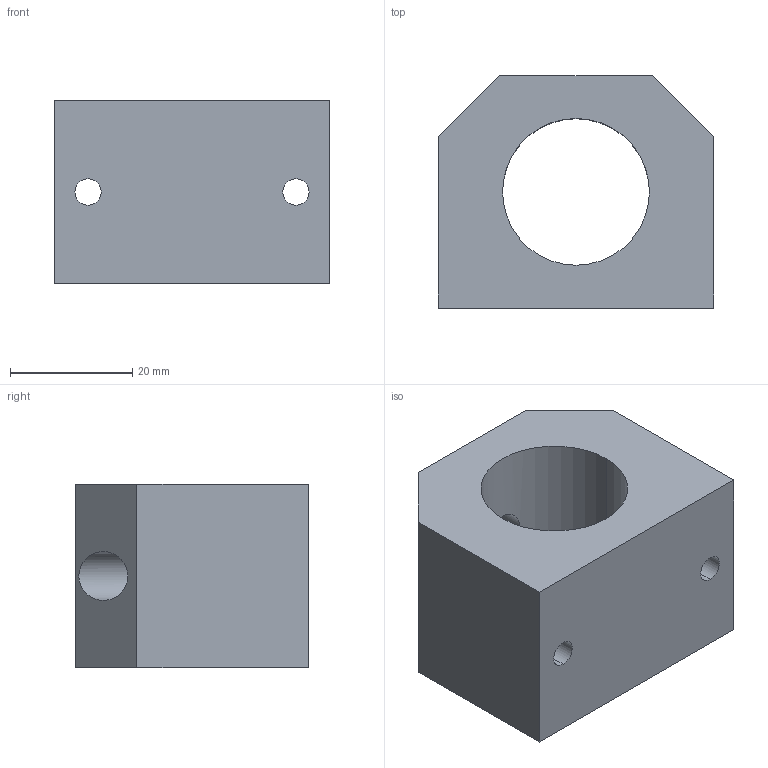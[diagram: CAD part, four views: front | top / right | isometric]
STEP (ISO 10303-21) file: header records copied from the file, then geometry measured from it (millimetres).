
FILE_DESCRIPTION (( 'STEP AP214' ), '1' );
FILE_NAME ('KGC27-16.step', '2020-03-04T13:06:01', ( '' ), ( '' ), 'SwSTEP 2.0', 'SolidWorks 2019', '' );
FILE_SCHEMA (( 'AUTOMOTIVE_DESIGN' ));
Length unit declared in the file: millimetre
Products named in the file (1): KGC27-16
Bounding box: 45 x 38 x 30 mm (x, y, z)
Volume: 32372.8 mm3; surface area: 10453.6 mm2
Topology: 1 solids, 1 shells, 22 faces, 54 edges, 36 vertices
Faces by surface type: cylinder 12, plane 10
Entity records: 832 total; most frequent: CARTESIAN_POINT 189, DIRECTION 112, ORIENTED_EDGE 108, EDGE_CURVE 54, AXIS2_PLACEMENT_3D 41, VERTEX_POINT 36, EDGE_LOOP 32, VECTOR 30
